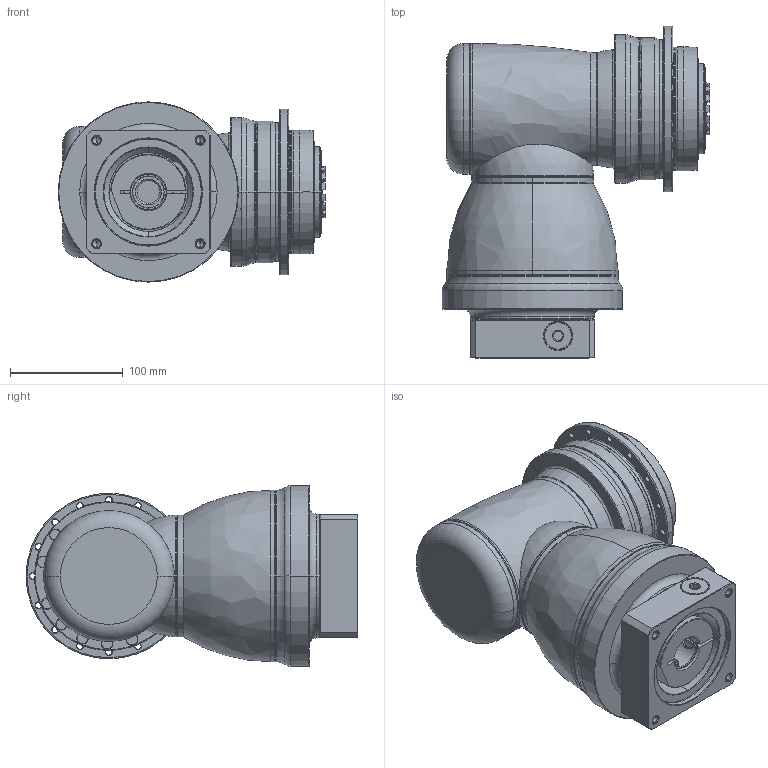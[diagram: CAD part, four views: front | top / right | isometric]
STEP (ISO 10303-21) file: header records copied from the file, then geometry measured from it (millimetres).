
FILE_DESCRIPTION((''),'2;1');
FILE_NAME('APCK110_2ST_SBG_28-P0409610201_ASM','2018-05-18T',('d01226'),(''),'PRO/ENGINEER BY PARAMETRIC TECHNOLOGY CORPORATION, 2008410','PRO/ENGINEER BY PARAMETRIC TECHNOLOGY CORPORATION, 2008410','');
FILE_SCHEMA(('CONFIG_CONTROL_DESIGN'));
Length unit declared in the file: millimetre
Products named in the file (13): P0278401003; P03594C0103; P1211400001; P1802410011; P1018500002; P1365500001; P1007501001; P1318501101; P0409610201; P0503600010; P0912551001; 21711418017; APCK110_2ST_SBG_28-P0409610201_ASM
Assembly tree (12 placements, depth 2):
  APCK110_2ST_SBG_28-P0409610201_ASM
    P0278401003
    P03594C0103
    P1211400001
    P1802410011
    P1018500002
    P1365500001
    P1007501001
    P1318501101
    P0409610201
    P0503600010
    P0912551001
    21711418017
Bounding box: 237.4 x 294.5 x 160 mm (x, y, z)
Volume: 4723980.7 mm3; surface area: 477593.1 mm2
Topology: 13 solids, 23 shells, 763 faces, 1806 edges, 1119 vertices
Faces by surface type: cylinder 267, cone 205, plane 159, torus 111, bspline 19, sphere 2
Entity records: 27851 total; most frequent: CARTESIAN_POINT 9584, DIRECTION 4144, ORIENTED_EDGE 3542, AXIS2_PLACEMENT_3D 1817, EDGE_CURVE 1792, VERTEX_POINT 1119, CIRCLE 1038, EDGE_LOOP 875
